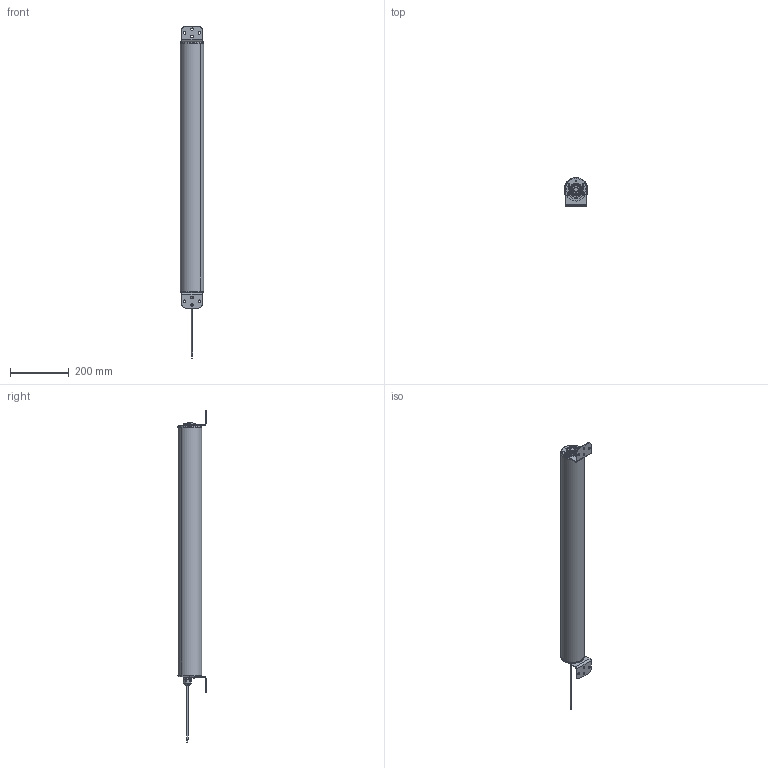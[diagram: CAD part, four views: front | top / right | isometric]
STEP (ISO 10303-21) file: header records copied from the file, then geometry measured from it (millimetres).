
FILE_DESCRIPTION (( 'STEP AP203' ), '1' );
FILE_NAME ('LB9x701.STEP', '2024-08-28T13:45:49', ( '' ), ( '' ), 'SwSTEP 2.0', 'SolidWorks 2021', '' );
FILE_SCHEMA (( 'CONFIG_CONTROL_DESIGN' ));
Length unit declared in the file: millimetre
Products named in the file (7): Cable M12 femelle_1_2; LB9x701; IP69K enclosure adjust_750; IP69K adjust model_750; 000039_M5x10_1_2; 006266-C; 000715_1_2
Assembly tree (10 placements, depth 2):
  LB9x701
    IP69K adjust model_750
    IP69K enclosure adjust_750
    000039_M5x10_1_2  x4
    000715_1_2
    Cable M12 femelle_1_2
    006266-C  x2
Bounding box: 80 x 95 x 1125.7 mm (x, y, z)
Volume: 2310226.8 mm3; surface area: 672586.9 mm2
Topology: 12 solids, 12 shells, 1217 faces, 3221 edges, 2095 vertices
Faces by surface type: plane 665, cylinder 366, bspline 116, cone 64, sphere 4, torus 2
Entity records: 40318 total; most frequent: CARTESIAN_POINT 12068, ORIENTED_EDGE 5898, DIRECTION 5512, EDGE_CURVE 2949, VERTEX_POINT 1930, AXIS2_PLACEMENT_3D 1859, VECTOR 1794, LINE 1794
